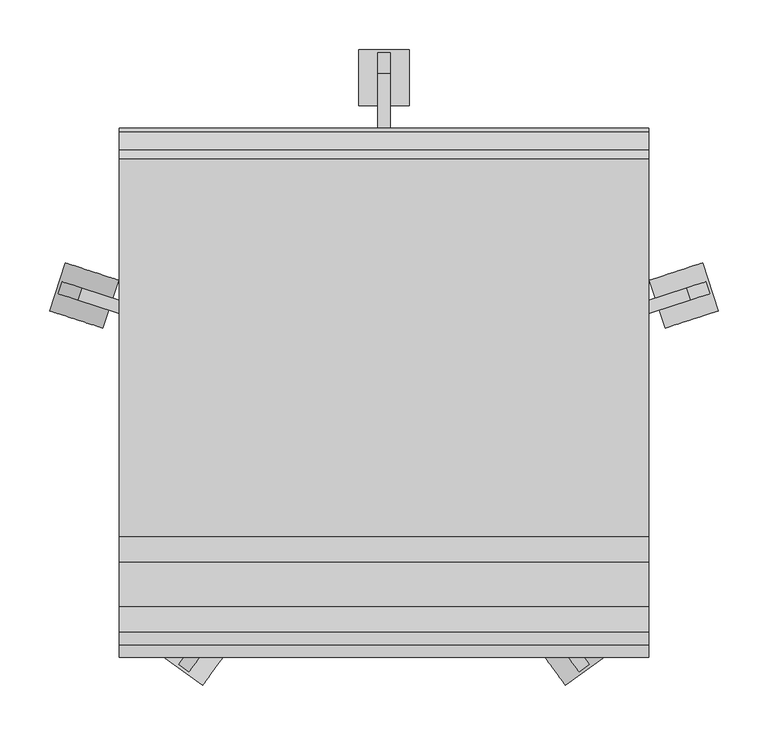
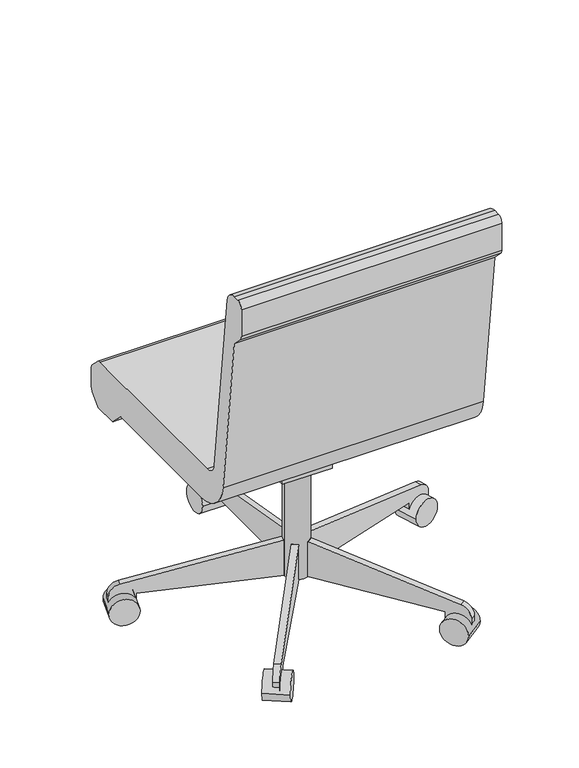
"""IFC4 building model written with IfcOpenShell, lengths in millimetres: furniture geometry, Mobilier - Siège - 02 - Siège - 02."""

import ifcopenshell
import ifcopenshell.guid

model = None  # the IFC model being written
_history = None  # IfcOwnerHistory: only IFC2X3 demands one
_inside = {}  # id of a spatial element -> (the spatial element, [elements in it])
_under = {}  # id of a project, library or spatial element -> (it, [spatial elements below it])
_declared = {}  # id of a project -> (the project, [libraries it declares])
_typed = {}  # id of a type object -> (the type object, [elements of that type])
_made_of = {}  # id of a material, layer set ... -> (it, [elements and type objects made of it])


def new_model(schema):
    """Start an empty IFC model of exactly this schema.

    Asked for "IFC4X3", IfcOpenShell would pick the latest addendum, in which some entities
    have other attributes; the version numbers below select the first issue.
    IFC2X3 requires an IfcOwnerHistory on every rooted entity: one is made here for all.
    """
    global model, _history
    if schema == "IFC4X3":
        model = ifcopenshell.file(schema_version=(4, 3, 0, 0))
    else:
        model = ifcopenshell.file(schema=schema)
    _inside.clear()
    _under.clear()
    _declared.clear()
    _typed.clear()
    _made_of.clear()
    _history = None
    if model.schema == "IFC2X3":
        org = make("IfcOrganization", Name="unknown")
        user = make(
            "IfcPersonAndOrganization",
            ThePerson=make("IfcPerson", FamilyName="unknown"),
            TheOrganization=org,
        )
        app = make(
            "IfcApplication",
            ApplicationDeveloper=org,
            Version="unknown",
            ApplicationFullName="unknown",
            ApplicationIdentifier="unknown",
        )
        _history = make(
            "IfcOwnerHistory",
            OwningUser=user,
            OwningApplication=app,
            ChangeAction="ADDED",
            CreationDate=0,
        )
    return model


def make(cls, **values):
    """One entity of the class cls with the attributes given. An attribute that is None is left unset."""
    return model.create_entity(
        cls, **{name: value for name, value in values.items() if value is not None}
    )


def rooted(cls, **values):
    """An entity with a GlobalId (a new one), such as an element, a storey or a relation."""
    return make(cls, GlobalId=ifcopenshell.guid.new(), OwnerHistory=_history, **values)


def si_unit(unit_type, name, prefix=None):
    """IfcSIUnit, for example si_unit("LENGTHUNIT", "METRE", prefix="MILLI")."""
    return make("IfcSIUnit", UnitType=unit_type, Prefix=prefix, Name=name)


def assignment(units):
    """IfcUnitAssignment: the units of a project."""
    return None if units is None else make("IfcUnitAssignment", Units=units)


def point(xyz):
    """IfcCartesianPoint."""
    return None if xyz is None else make("IfcCartesianPoint", Coordinates=xyz)


def direction(xyz):
    """IfcDirection."""
    return None if xyz is None else make("IfcDirection", DirectionRatios=xyz)


def frame(location, z_axis=None, x_axis=None):
    """IfcAxis2Placement3D, a coordinate frame: its origin and axes. An axis left out is left unset."""
    return make(
        "IfcAxis2Placement3D",
        Location=point(location),
        Axis=direction(z_axis),
        RefDirection=direction(x_axis),
    )


def frame_2d(location, x_axis=None):
    """IfcAxis2Placement2D, a coordinate frame in the plane: its origin and x axis."""
    return make(
        "IfcAxis2Placement2D", Location=point(location), RefDirection=direction(x_axis)
    )


def origin():
    """The frame at (0, 0, 0) with its axes left unset."""
    return frame((0.0, 0.0, 0.0))


def origin_2d():
    """The frame at (0, 0) in the plane with its x axis left unset."""
    return frame_2d((0.0, 0.0))


def place(relative_to, where):
    """IfcLocalPlacement: puts the frame where relative to a parent placement (None: the world)."""
    return make(
        "IfcLocalPlacement", PlacementRelTo=relative_to, RelativePlacement=where
    )


def context(
    kind, dimensions, precision=None, world=None, true_north=None, identifier=None
):
    """IfcGeometricRepresentationContext, for example the 3D "Model" context."""
    return make(
        "IfcGeometricRepresentationContext",
        ContextIdentifier=identifier,
        ContextType=kind,
        CoordinateSpaceDimension=dimensions,
        Precision=precision,
        WorldCoordinateSystem=world,
        TrueNorth=true_north,
    )


def project(units=None, contexts=None):
    """IfcProject with its units and contexts."""
    return rooted(
        "IfcProject",
        Name="project",
        RepresentationContexts=contexts,
        UnitsInContext=assignment(units),
    )


def spatial(cls, under=None, at=None, **own):
    """A site, building, storey or space (cls), placed at a placement, below another one or the project."""
    s = rooted(cls, ObjectPlacement=at, **own)
    if under is not None:
        _under.setdefault(under.id(), (under, []))[1].append(s)
    return s


def polyline(points):
    """IfcPolyline through the points."""
    return make("IfcPolyline", Points=[point(p) for p in points])


def circle_curve(where, radius):
    """IfcCircle in the frame where."""
    return make("IfcCircle", Position=where, Radius=radius)


def trimmed(basis, trim1, trim2, sense, master):
    """IfcTrimmedCurve: the piece of a basis curve between two trims."""
    return make(
        "IfcTrimmedCurve",
        BasisCurve=basis,
        Trim1=trim1,
        Trim2=trim2,
        SenseAgreement=sense,
        MasterRepresentation=master,
    )


def segment(curve, same_sense, transition):
    """IfcCompositeCurveSegment."""
    return make(
        "IfcCompositeCurveSegment",
        Transition=transition,
        SameSense=same_sense,
        ParentCurve=curve,
    )


def composite_curve(segments, self_intersect=None):
    """IfcCompositeCurve: segments joined end to end."""
    return make("IfcCompositeCurve", Segments=segments, SelfIntersect=self_intersect)


def outline(outer, holes=None, kind="AREA"):
    """IfcArbitraryClosedProfileDef: a profile drawn as a closed curve; with holes, ...WithVoids."""
    if holes is None:
        return make("IfcArbitraryClosedProfileDef", ProfileType=kind, OuterCurve=outer)
    return make(
        "IfcArbitraryProfileDefWithVoids",
        ProfileType=kind,
        OuterCurve=outer,
        InnerCurves=holes,
    )


def extrude(swept, where, along, depth):
    """IfcExtrudedAreaSolid: the profile swept, set in the frame where, extruded along a direction by depth."""
    return make(
        "IfcExtrudedAreaSolid",
        SweptArea=swept,
        Position=where,
        ExtrudedDirection=direction(along),
        Depth=depth,
    )


def shape(context_of_items, identifier, shape_type, items):
    """IfcShapeRepresentation: the items that make up one representation, for example the "Body"."""
    return make(
        "IfcShapeRepresentation",
        ContextOfItems=context_of_items,
        RepresentationIdentifier=identifier,
        RepresentationType=shape_type,
        Items=items,
    )


def source(mapping_origin, context_of_items, identifier, shape_type, items):
    """IfcRepresentationMap: a shape defined once, which mapped items show again and again."""
    return make(
        "IfcRepresentationMap",
        MappingOrigin=mapping_origin,
        MappedRepresentation=shape(context_of_items, identifier, shape_type, items),
    )


def transform(
    local_origin,
    x_axis=None,
    y_axis=None,
    z_axis=None,
    scale=None,
    scale2=None,
    scale3=None,
    uniform=True,
):
    """IfcCartesianTransformationOperator3D, or its non-uniform kind. x_axis, y_axis, z_axis: its Axis1, 2, 3."""
    if uniform:
        return make(
            "IfcCartesianTransformationOperator3D",
            Axis1=direction(x_axis),
            Axis2=direction(y_axis),
            LocalOrigin=point(local_origin),
            Scale=scale,
            Axis3=direction(z_axis),
        )
    return make(
        "IfcCartesianTransformationOperator3DnonUniform",
        Axis1=direction(x_axis),
        Axis2=direction(y_axis),
        LocalOrigin=point(local_origin),
        Scale=scale,
        Axis3=direction(z_axis),
        Scale2=scale2,
        Scale3=scale3,
    )


def mapped(mapping_source, mapping_target):
    """IfcMappedItem: shows the shape of a source again, moved by a transform."""
    return make(
        "IfcMappedItem", MappingSource=mapping_source, MappingTarget=mapping_target
    )


def made_of(thing, what):
    """Note that an element or type object is made of a material, layer set ...; save() writes the relation."""
    if what is not None:
        _made_of.setdefault(what.id(), (what, []))[1].append(thing)
    return thing


def element(
    cls,
    number,
    at=None,
    inside=None,
    cuts=None,
    type_object=None,
    material=None,
    context=None,
    identifier="Body",
    shape_type=None,
    held_by="IfcProductDefinitionShape",
    body=None,
    shapes=None,
    **own,
):
    """One element of the class cls, such as IfcWall. Its Tag is "e" and its number.

    at: its placement. inside: the storey or other place that contains it. cuts: it is an
    opening in that element (IfcRelVoidsElement). A single representation is given by context,
    identifier, shape_type and body (its items); several are given by shapes. held_by: the class
    of the entity that holds the representations. save() writes the other relations.
    """
    e = rooted(cls, Tag="e%d" % number, ObjectPlacement=at, **own)
    if body is not None:
        shapes = [shape(context, identifier, shape_type, body)]
    if shapes is not None:
        e.Representation = make(held_by, Representations=shapes)
    if inside is not None:
        _inside.setdefault(inside.id(), (inside, []))[1].append(e)
    if cuts is not None:
        rooted(
            "IfcRelVoidsElement", RelatingBuildingElement=cuts, RelatedOpeningElement=e
        )
    if type_object is not None:
        _typed.setdefault(type_object.id(), (type_object, []))[1].append(e)
    return made_of(e, material)


def aggregate(whole, parts):
    """IfcRelAggregates: a whole, such as a stair, and the parts it consists of."""
    return rooted("IfcRelAggregates", RelatingObject=whole, RelatedObjects=parts)


def save(model, path):
    """Write the relations noted so far, then the file.

    IfcRelAggregates (storeys below a building ...), IfcRelContainedInSpatialStructure (elements
    in a storey), IfcRelDefinesByType, IfcRelAssociatesMaterial and IfcRelDeclares: one each for
    every whole, place, type object, material and project.
    """
    for whole, parts in _under.values():
        aggregate(whole, parts)
    for where, things in _inside.values():
        rooted(
            "IfcRelContainedInSpatialStructure",
            RelatedElements=things,
            RelatingStructure=where,
        )
    for kind, things in _typed.values():
        rooted("IfcRelDefinesByType", RelatedObjects=things, RelatingType=kind)
    for what, things in _made_of.values():
        rooted("IfcRelAssociatesMaterial", RelatedObjects=things, RelatingMaterial=what)
    for by, libraries in _declared.values():
        rooted("IfcRelDeclares", RelatingContext=by, RelatedDefinitions=libraries)
    model.write(path)


def furniture_e10027ee(model_context):
    return source(origin(), model_context, "Body", "SweptSolid", [
        extrude(outline(composite_curve([segment(polyline([(89.936167, 15.5525279), (89.936167, 40.9525279), (140.736167, 40.9525279), (140.736167, 16.6494749)]), True, "CONTINUOUS"), segment(trimmed(circle_curve(frame_2d((115.336167, 16.6494749)), 25.4), [point((140.736167, 16.6494749))], [point((119.7468308, -8.364642))], False, "CARTESIAN"), True, "CONTINUOUS"), segment(polyline([(119.7468308, -8.364642), (-176.763833, -60.6474721), (-202.163833, -60.6474721), (-202.163833, 15.5525279), (89.936167, 15.5525279)]), True, "CONTINUOUS")], self_intersect=False)), frame((335.2223083, 75.3787528, 69.1361223), z_axis=(-0.3090169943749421, 0.9510565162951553, 0.0), x_axis=(0.9510565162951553, 0.3090169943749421, 0.0)), (0.0, 0.0, 1.0), 12.7),
        extrude(outline(composite_curve([segment(trimmed(circle_curve(origin_2d(), 28.2002727), [point((28.2002727, 0.0))], [point((-28.2002727, 0.0))], False, "CARTESIAN"), True, "CONTINUOUS"), segment(trimmed(circle_curve(origin_2d(), 28.2002727), [point((-28.2002727, 0.0))], [point((28.2002727, 0.0))], False, "CARTESIAN"), True, "CONTINUOUS")], self_intersect=False)), frame((307.0636056, -252.8467395, 28.1835944), z_axis=(0.8090169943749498, 0.5877852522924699, 0.0), x_axis=(0.5877852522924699, -0.8090169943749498, 0.0)), (0.0, 0.0, 1.0), 50.8),
        extrude(outline(composite_curve([segment(polyline([(89.9361671, 15.5525279), (89.9361671, 40.9525279), (140.7361671, 40.9525279), (140.7361671, 16.6494749)]), True, "CONTINUOUS"), segment(trimmed(circle_curve(frame_2d((115.3361671, 16.6494749)), 25.4), [point((140.7361671, 16.6494749))], [point((119.7468307, -8.364642))], False, "CARTESIAN"), True, "CONTINUOUS"), segment(polyline([(119.7468307, -8.364642), (-176.7638329, -60.6474721), (-202.1638329, -60.6474721), (-202.1638329, 15.5525279), (89.9361671, 15.5525279)]), True, "CONTINUOUS")], self_intersect=False)), frame((254.6824813, -148.3405112, 69.1361223), z_axis=(0.8090169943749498, 0.5877852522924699, 0.0), x_axis=(0.5877852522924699, -0.8090169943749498, 0.0)), (0.0, 0.0, 1.0), 12.7),
        extrude(outline(composite_curve([segment(trimmed(circle_curve(origin_2d(), 28.2002727), [point((-28.2002727, 0.0))], [point((28.2002727, 0.0))], False, "CARTESIAN"), True, "CONTINUOUS"), segment(trimmed(circle_curve(origin_2d(), 28.2002727), [point((28.2002727, 0.0))], [point((-28.2002727, 0.0))], False, "CARTESIAN"), True, "CONTINUOUS")], self_intersect=False)), frame((-25.0819663, -252.8467395, 28.1835944), z_axis=(-0.8090169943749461, 0.5877852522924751, 0.0), x_axis=(0.5877852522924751, 0.8090169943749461, 0.0)), (0.0, 0.0, 1.0), 50.8),
        extrude(outline(composite_curve([segment(polyline([(-89.9361671, 15.5525279), (202.163833, 15.5525279), (202.163833, -60.6474721), (176.7638329, -60.6474721), (-119.7468307, -8.364642)]), True, "CONTINUOUS"), segment(trimmed(circle_curve(frame_2d((-115.336167, 16.6494749)), 25.4), [point((-119.7468307, -8.364642))], [point((-140.736167, 16.6494749))], False, "CARTESIAN"), True, "CONTINUOUS"), segment(polyline([(-140.736167, 16.6494749), (-140.736167, 40.9525279), (-89.9361671, 40.9525279), (-89.9361671, 15.5525279)]), True, "CONTINUOUS")], self_intersect=False)), frame((27.299158, -148.3405112, 69.1361223), z_axis=(-0.8090169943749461, 0.5877852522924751, 0.0), x_axis=(0.5877852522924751, 0.8090169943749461, 0.0)), (0.0, 0.0, 1.0), 12.7),
        extrude(outline(composite_curve([segment(trimmed(circle_curve(origin_2d(), 28.2002727), [point((-28.2002727, 0.0))], [point((28.2002727, 0.0))], False, "CARTESIAN"), True, "CONTINUOUS"), segment(trimmed(circle_curve(origin_2d(), 28.2002727), [point((28.2002727, 0.0))], [point((-28.2002727, 0.0))], False, "CARTESIAN"), True, "CONTINUOUS")], self_intersect=False)), frame((-168.8186559, 92.9019618, 28.1835944), z_axis=(0.30901699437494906, 0.9510565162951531, 0.0), x_axis=(0.9510565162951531, -0.30901699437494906, 0.0)), (0.0, 0.0, 1.0), 50.8),
        extrude(outline(composite_curve([segment(polyline([(-89.9361671, 15.5525279), (202.163833, 15.5525279), (202.163833, -60.6474721), (176.7638329, -60.6474721), (-119.7468308, -8.364642)]), True, "CONTINUOUS"), segment(trimmed(circle_curve(frame_2d((-115.3361671, 16.6494749)), 25.4), [point((-119.7468308, -8.364642))], [point((-140.7361671, 16.6494749))], False, "CARTESIAN"), True, "CONTINUOUS"), segment(polyline([(-140.7361671, 16.6494749), (-140.7361671, 40.9525279), (-89.9361671, 40.9525279), (-89.9361671, 15.5525279)]), True, "CONTINUOUS")], self_intersect=False)), frame((-53.2406689, 75.3787528, 69.1361223), z_axis=(0.30901699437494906, 0.9510565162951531, 0.0), x_axis=(0.9510565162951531, -0.30901699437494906, 0.0)), (0.0, 0.0, 1.0), 12.7),
        extrude(outline(composite_curve([segment(trimmed(circle_curve(frame_2d((336.4459016, 28.1835944)), 28.2002727), [point((364.6461744, 28.1835944))], [point((308.2456289, 28.1835944))], False, "CARTESIAN"), True, "CONTINUOUS"), segment(trimmed(circle_curve(frame_2d((336.4459016, 28.1835944)), 28.2002727), [point((308.2456289, 28.1835944))], [point((364.6461744, 28.1835944))], False, "CARTESIAN"), True, "CONTINUOUS")], self_intersect=False)), frame((115.5908197, 0.0, 0.0), z_axis=(1.0, 0.0, 0.0), x_axis=(0.0, 1.0, 0.0)), (0.0, 0.0, 1.0), 50.8),
        extrude(outline(composite_curve([segment(polyline([(311.0459016, 53.5835944), (18.9459016, 53.5835944), (18.9459016, 129.7835944), (44.3459016, 129.7835944), (340.8565654, 77.5007643)]), True, "CONTINUOUS"), segment(trimmed(circle_curve(frame_2d((336.4459016, 52.4866474)), 25.4), [point((340.8565654, 77.5007643))], [point((361.8459016, 52.4866474))], False, "CARTESIAN"), True, "CONTINUOUS"), segment(polyline([(361.8459016, 52.4866474), (361.8459016, 28.1835944), (311.0459016, 28.1835944), (311.0459016, 53.5835944)]), True, "CONTINUOUS")], self_intersect=False)), frame((134.6408197, 0.0, 0.0), z_axis=(1.0, 0.0, 0.0), x_axis=(0.0, 1.0, 0.0)), (0.0, 0.0, 1.0), 12.7),
        extrude(outline(composite_curve([segment(polyline([(-126.2050455, 457.2), (255.0102301, 457.2)]), True, "CONTINUOUS"), segment(trimmed(circle_curve(frame_2d((255.0102301, 444.5)), 12.7), [point((255.0102301, 457.2))], [point((263.9604301, 453.510212))], False, "CARTESIAN"), True, "CONTINUOUS"), segment(polyline([(263.9604301, 453.510212), (281.8961016, 435.6939999)]), True, "CONTINUOUS"), segment(trimmed(circle_curve(frame_2d((272.9459016, 426.6837879)), 12.7), [point((281.8961016, 435.6939999))], [point((285.6459016, 426.6837879))], False, "CARTESIAN"), True, "CONTINUOUS"), segment(polyline([(285.6459016, 426.6837879), (285.6459016, 391.6405184)]), True, "CONTINUOUS"), segment(trimmed(circle_curve(frame_2d((260.2459016, 391.6405184)), 25.4), [point((285.6459016, 391.6405184))], [point((278.2663256, 373.7401184))], False, "CARTESIAN"), True, "CONTINUOUS"), segment(polyline([(278.2663256, 373.7401184), (260.2470284, 355.6), (209.4470284, 355.6), (181.0744602, 383.7835944), (-107.1089978, 383.7835944)]), True, "CONTINUOUS"), segment(trimmed(circle_curve(frame_2d((-107.1089978, 459.9835944)), 76.2), [point((-107.1089978, 383.7835944))], [point((-182.7870738, 451.0802913))], False, "CARTESIAN"), True, "CONTINUOUS"), segment(polyline([(-182.7870738, 451.0802913), (-222.3540984, 787.4), (-244.0343545, 809.0802561)]), True, "CONTINUOUS"), segment(trimmed(circle_curve(frame_2d((-235.0540984, 818.0605122)), 12.7), [point((-244.0343545, 809.0802561))], [point((-247.7540984, 818.0605122))], False, "CARTESIAN"), True, "CONTINUOUS"), segment(polyline([(-247.7540984, 818.0605122), (-247.7540984, 876.3)]), True, "CONTINUOUS"), segment(trimmed(circle_curve(frame_2d((-235.0540984, 876.3)), 12.7), [point((-247.7540984, 876.3))], [point((-235.0540984, 889.0))], False, "CARTESIAN"), True, "CONTINUOUS"), segment(polyline([(-235.0540984, 889.0), (-222.1789239, 889.0)]), True, "CONTINUOUS"), segment(trimmed(circle_curve(frame_2d((-222.1789239, 863.6)), 25.4), [point((-222.1789239, 889.0))], [point((-196.9528985, 866.5677677))], False, "CARTESIAN"), True, "CONTINUOUS"), segment(polyline([(-196.9528985, 866.5677677), (-151.4310708, 479.6322323)]), True, "CONTINUOUS"), segment(trimmed(circle_curve(frame_2d((-126.2050455, 482.6)), 25.4), [point((-151.4310708, 479.6322323))], [point((-126.2050455, 457.2))], True, "CARTESIAN"), True, "CONTINUOUS")], self_intersect=False)), frame((-125.7091803, 0.0, 0.0), z_axis=(1.0, 0.0, 0.0), x_axis=(0.0, 1.0, 0.0)), (0.0, 0.0, 1.0), 533.4),
        extrude(outline(composite_curve([segment(trimmed(circle_curve(frame_2d((140.9908197, 18.9459016)), 25.4), [point((166.3908197, 18.9459016))], [point((115.5908197, 18.9459016))], False, "CARTESIAN"), True, "CONTINUOUS"), segment(trimmed(circle_curve(frame_2d((140.9908197, 18.9459016)), 25.4), [point((115.5908197, 18.9459016))], [point((166.3908197, 18.9459016))], False, "CARTESIAN"), True, "CONTINUOUS")], self_intersect=False)), frame((0.0, 0.0, 53.5835944), z_axis=(0.0, 0.0, 1.0), x_axis=(1.0, 0.0, 0.0)), (0.0, 0.0, 1.0), 330.5914056),
        extrude(outline(polyline([(69.7459016, 383.7835944), (69.7459016, 371.0835944), (18.9459016, 283.0954134), (-19.1540984, 283.0954134), (-19.1540984, 383.7835944), (69.7459016, 383.7835944)])), frame((90.1908197, 0.0, 0.0), z_axis=(1.0, 0.0, 0.0), x_axis=(0.0, 1.0, 0.0)), (0.0, 0.0, 1.0), 101.6),
        extrude(outline(composite_curve([segment(trimmed(circle_curve(origin_2d(), 28.2002727), [point((28.2002727, 0.0))], [point((-28.2002728, 0.0))], False, "CARTESIAN"), True, "CONTINUOUS"), segment(trimmed(circle_curve(origin_2d(), 28.2002727), [point((-28.2002728, 0.0))], [point((28.2002727, 0.0))], False, "CARTESIAN"), True, "CONTINUOUS")], self_intersect=False)), frame((450.8002953, 92.9019618, 28.1835944), z_axis=(-0.3090169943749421, 0.9510565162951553, 0.0), x_axis=(0.9510565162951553, 0.3090169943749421, 0.0)), (0.0, 0.0, 1.0), 50.8),
    ])


if __name__ == "__main__":
    model = new_model("IFC4")
    model_context = context("Model", 3, world=origin())
    ifc_project = project(units=[si_unit("LENGTHUNIT", "METRE", prefix="MILLI")], contexts=[model_context])
    site = spatial("IfcSite", under=ifc_project)
    building = spatial("IfcBuilding", under=site)
    placement = place(None, origin())
    furniture_shape = furniture_e10027ee(model_context)
    element("IfcFurniture", 1, ObjectType="Mobilier - Siège - 02 - Siège - 02", at=placement, inside=building, context=model_context, shape_type="MappedRepresentation", body=[
        mapped(furniture_shape, transform((0.0, 0.0, 0.0), x_axis=(1.0, 0.0, 0.0), y_axis=(0.0, 1.0, 0.0), z_axis=(0.0, 0.0, 1.0))),
    ])
    save(model, "model.ifc")
